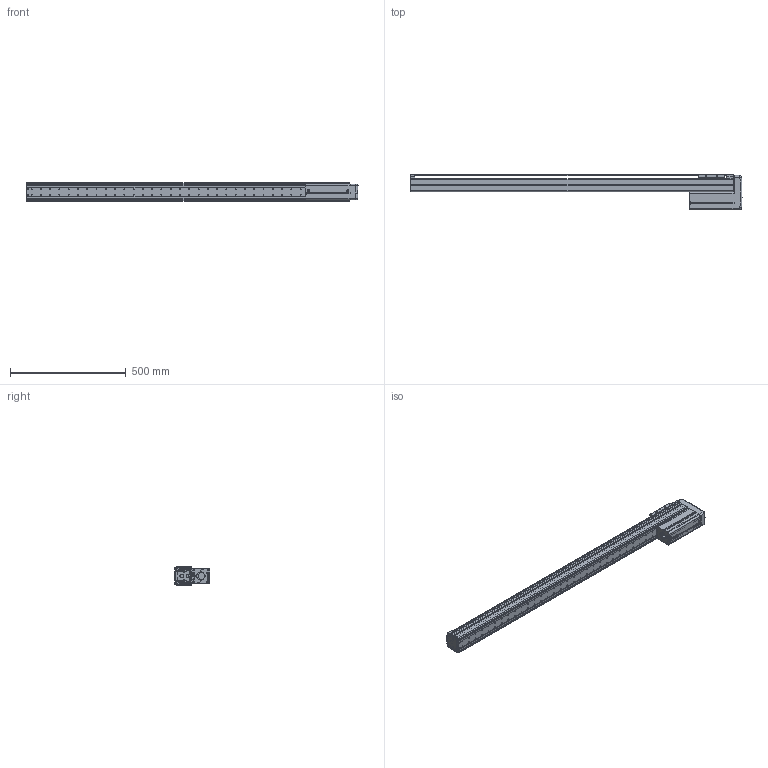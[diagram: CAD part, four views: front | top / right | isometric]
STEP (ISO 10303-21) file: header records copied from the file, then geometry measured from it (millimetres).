
FILE_DESCRIPTION((''),'2;1');
FILE_NAME('BE10E-UU-M_B-C0_IGS_PRT','2017-06-17T',(' '),(''),'PRO/ENGINEER BY PARAMETRIC TECHNOLOGY CORPORATION, 2015030','PRO/ENGINEER BY PARAMETRIC TECHNOLOGY CORPORATION, 2015030','');
FILE_SCHEMA(('CONFIG_CONTROL_DESIGN'));
Length unit declared in the file: millimetre
Products named in the file (1): BE10E-UU-M_B-C0_IGS_PRT
Bounding box: 1431.42 x 153 x 78 mm (x, y, z)
Volume: 1926935.5 mm3; surface area: 1301505.3 mm2
Topology: 2 solids, 147 shells, 1955 faces, 5302 edges, 3464 vertices
Faces by surface type: cylinder 985, plane 742, cone 81, torus 69, sphere 44, bspline 34
Entity records: 64305 total; most frequent: CARTESIAN_POINT 13731, DIRECTION 10964, ORIENTED_EDGE 9962, EDGE_CURVE 5262, AXIS2_PLACEMENT_3D 4142, VERTEX_POINT 3464, VECTOR 2680, LINE 2680
